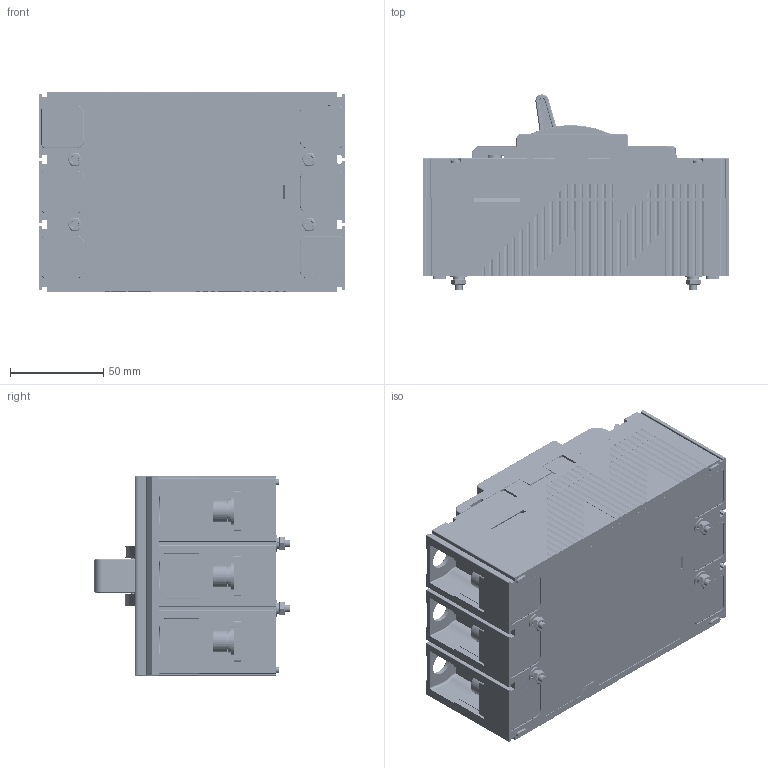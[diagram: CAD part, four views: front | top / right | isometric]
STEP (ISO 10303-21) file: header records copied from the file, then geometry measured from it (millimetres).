
FILE_DESCRIPTION (( 'STEP AP214' ), '1' );
FILE_NAME ('2MG.256.863.1-10 SMG6s-250-3P-1.STEP', '2023-11-03T09:27:51', ( 'Maxge' ), ( '' ), 'SwSTEP 2.0', 'SolidWorks 2016', '' );
FILE_SCHEMA (( 'AUTOMOTIVE_DESIGN' ));
Length unit declared in the file: millimetre
Products named in the file (92): 标准型弹簧垫圈 4 GB T 93 - 1987; S型（小）平垫圈 用于螺钉组合件 5 GB T 97.4 (S) - 2002; 6MG.XXX.XXX.1 3P紱釬儂凳; 粟銅粟菜 8 GB-T93; 8MG.900.870  十字槽盘头二组合螺钉M4X12 GB9074.7-88-3; 6MG.049.861.1-10  絳萇炵苀; 坋趼羞攫芛蹟隊 M4X12   GB 823; 8MG.900.870  十字槽盘头二组合螺钉M4X12 GB9074.7-88-1; 6MG.XXX.XXX 裔郪璃; 2MG.256.863.1-10 SMG6s-250-3P-1; 8MG.900.867  十字槽盘头三组合螺钉M3X8 GB9074.8-88-1; 6MG.XXX.XXX.2 3P紱釬儂凳; 8MG.742.866  路說啣 ; 8MG.900.863.2 十字槽沉头自锁螺钉M2.5X5GBT819.1-2016; 8MG.900.861  十字槽盘头三组合螺钉 M4X65(GB9074.8-88)-3; 8MG.900.866  十字槽盘头三组合螺钉M3.5x20 GB 9074.8-88; 8MG.900.867  十字槽盘头三组合螺钉M3X8 GB9074.8-88; 8MG.900.871  十字槽盘头三组合螺钉M5X8 GB9074.8-88-1; S型（小）平垫圈 用于螺钉组合件 3 GB T 97.4 (S) - 2002; 8MG.585.863  諉盄啣225-250A-1; 8MG.024.862 3P250價釱1-1; 5MG.552.864.1-6 雄揖芛郪璃; 8MG.900.861  十字槽盘头三组合螺钉 M4X65(GB9074.8-88)-1; 标准型弹簧垫圈 3.5 GB T 93 - 1987; 8MG.900.862  内六角三组合螺钉M8X20 GB-T70.1-2000-3; 8MG.281.861 迕諶粟銅; 8MG.206.866 蛌粣粣  ; 6MG.XXX.XXX.3 紱釬儂凳; 8MG.300.861 芵隴欶; 坋趼羞攫芛蹟隊 M5X8     GB 823; 5MG.552.861.1 雄揖芛-1; 囀鞠褒蹟隊 M8x20 GB-T70.1; 8MG.060.861 3P醱啣-1; 8MG.253.863 旋钮 (热）; 8MG.900.862  内六角三组合螺钉M8X20 GB-T70.1-2000; 5MG.552.862.2 噙揖芛225-250A-2; 8MG.900.861  十字槽盘头三组合螺钉 M4X65(GB9074.8-88); 8MG.900.868.1 覃誹蹟隊郪磁璃 M3x14; 8MG.595.861  竘說褒; 平垫圈 8 GB-T848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
Assembly tree (194 placements, depth 7):
  2MG.256.863.1-10 SMG6s-250-3P-1
    6MG.XXX.XXX 裔郪璃
      8MG.060.861 3P醱啣-1
      8MG.281.861 迕諶粟銅
      8MG.253.862 迕諶偌聽
      8MG.300.861 芵隴欶
      8MG.315.865 3P热可调250中盖1-1
    6MG.XXX.XXX.3 紱釬儂凳
      5MG.615.861.1-10  萇棠炵苀
        6MG.049.861.1-10  絳萇炵苀
          5MG.558.861.4  絳萇炵苀
            8MG.585.863  諉盄啣225-250A-1
        8MG.900.868.1 覃誹蹟隊郪磁璃 M3x14
          8MG.940.863  蹟譫 GB6170-86-M3
      5MG.615.861.1-10  萇棠炵苀-1
        6MG.049.861.1-10  絳萇炵苀-1
          5MG.558.861.4  絳萇炵苀-1
            8MG.585.863  諉盄啣225-250A-1
        8MG.900.868.1 覃誹蹟隊郪磁璃 M3x14-1
          8MG.900.868  蹟隊 GB78-2000- M3x14mm
      5MG.615.861.1-10  萇棠炵苀-2
        6MG.049.861.1-10  絳萇炵苀-2
          5MG.558.861.4  絳萇炵苀-2
            8MG.585.863  諉盄啣225-250A-1
        8MG.900.868.1 覃誹蹟隊郪磁璃 M3x14-2
          8MG.900.868  蹟隊 GB78-2000- M3x14mm
      5MG.552.862.2 噙揖芛225-250A
        8MG.551.863  噙揖啣225-250A-1
        8MG.595.861  竘說褒
      5MG.552.862.2 噙揖芛225-250A-1
        8MG.551.863  噙揖啣225-250A-1
      5MG.552.862.2 噙揖芛225-250A-2
        8MG.551.863  噙揖啣225-250A-1
      6MG.XXX.XXX.2 3P紱釬儂凳
        6MG.XXX.XXX.1 3P紱釬儂凳
          5MG.552.864.1-6 雄揖芛郪璃
            5MG.552.861.1 雄揖芛
              8MG.552.862  雄窅萸
          5MG.552.864.1-6 雄揖芛郪璃-1
            5MG.552.861.1 雄揖芛-1
              8MG.552.862  雄窅萸
          8MG.206.866 蛌粣粣  
        8MG.900.866  十字槽盘头三组合螺钉M3.5x20 GB 9074.8-88
          坋趼羞攫芛蹟隊 M3.5X20 GB 823
          标准型弹簧垫圈 3.5 GB T 93 - 1987
          S型（小）平垫圈 用于螺钉组合件 3.5 GB T 97.4 (S) - 2002
        8MG.900.866  十字槽盘头三组合螺钉M3.5x20 GB 9074.8-88-1
          坋趼羞攫芛蹟隊 M3.5X20 GB 823
          标准型弹簧垫圈 3.5 GB T 93 - 1987
          S型（小）平垫圈 用于螺钉组合件 3.5 GB T 97.4 (S) - 2002
        8MG.900.866  十字槽盘头三组合螺钉M3.5x20 GB 9074.8-88-2
          坋趼羞攫芛蹟隊 M3.5X20 GB 823
          标准型弹簧垫圈 3.5 GB T 93 - 1987
          S型（小）平垫圈 用于螺钉组合件 3.5 GB T 97.4 (S) - 2002
        8MG.900.866  十字槽盘头三组合螺钉M3.5x20 GB 9074.8-88-3
          坋趼羞攫芛蹟隊 M3.5X20 GB 823
          标准型弹簧垫圈 3.5 GB T 93 - 1987
          S型（小）平垫圈 用于螺钉组合件 3.5 GB T 97.4 (S) - 2002
        8MG.900.867  十字槽盘头三组合螺钉M3X8 GB9074.8-88
          坋趼羞攫芛蹟隊 M3X8     GB 823
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Bounding box: 165 x 104.87 x 107 mm (x, y, z)
Volume: 1031075.2 mm3; surface area: 307219.4 mm2
Topology: 142 solids, 171 shells, 7914 faces, 20594 edges, 13070 vertices
Faces by surface type: plane 3916, cylinder 2041, bspline 885, cone 776, torus 264, sphere 32
Entity records: 156572 total; most frequent: CARTESIAN_POINT 40800, ORIENTED_EDGE 23998, DIRECTION 22826, EDGE_CURVE 12003, VECTOR 7940, LINE 7940, VERTEX_POINT 7749, AXIS2_PLACEMENT_3D 7443
